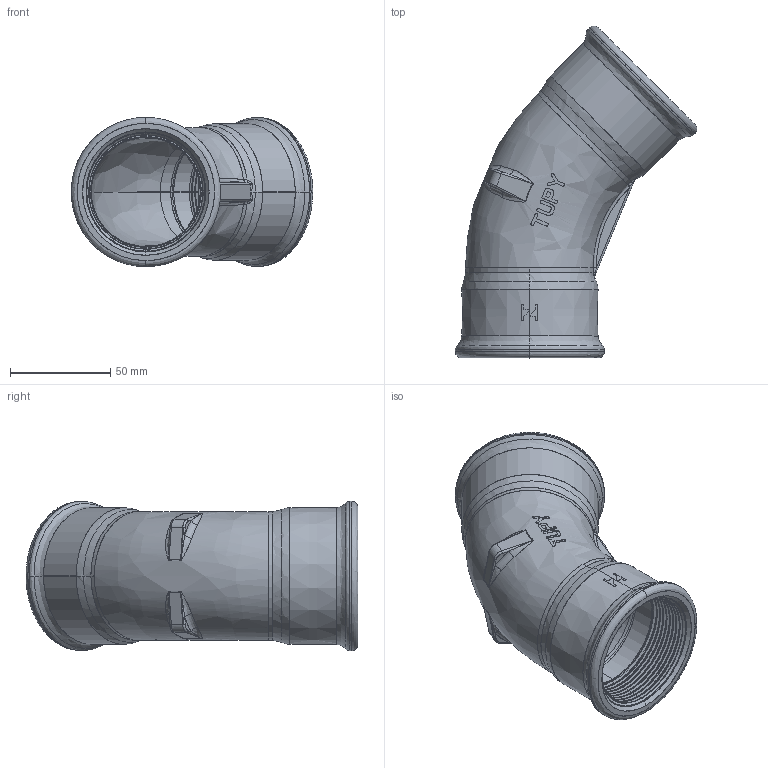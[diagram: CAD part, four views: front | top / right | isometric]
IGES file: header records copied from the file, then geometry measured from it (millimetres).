
Start section: SolidWorks IGES file using analytic representation for surfaces
Global section: file name: C:\Users\Joel Rosa\Desktop\Tubulação\12-26-OK\12-26-010.IGS; native system: SolidWorks 2011; preprocessor: SolidWorks 2011; author: Joel Rosa; date: 131025.205103; units: millimetre
Bounding box: 120.37 x 165.37 x 74.4 mm (x, y, z)
Surface area: 70895.2 mm2 (no closed solid volume)
Topology: 0 solids, 0 shells, 414 faces, 3565 edges, 3565 vertices
Faces by surface type: bspline 286, revolution 128
